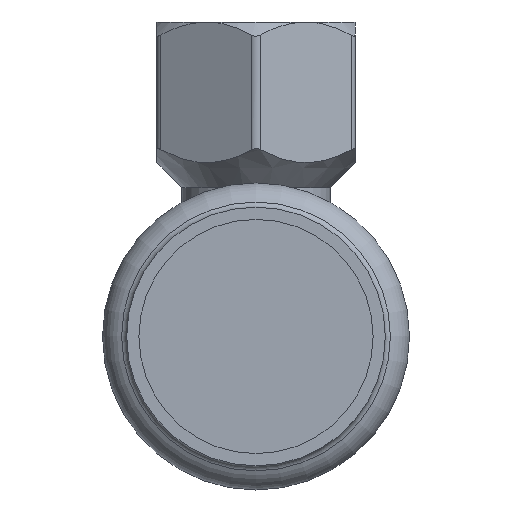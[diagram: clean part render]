
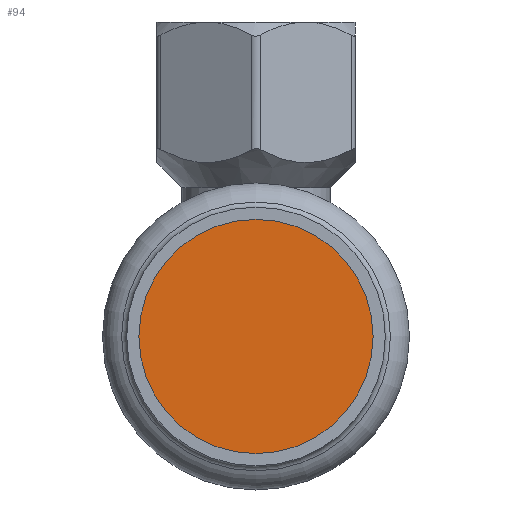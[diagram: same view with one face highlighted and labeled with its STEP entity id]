
A CAD part, front view. The second image highlights one B-rep face of the part: STEP entity #94.
In plain terms, the highlighted planar face has unit normal (0, -1, 0).
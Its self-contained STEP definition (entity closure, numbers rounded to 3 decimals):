
#94=ADVANCED_FACE('',(#429),#431,.T.);
#429=FACE_BOUND('',#430,.T.);
#430=EDGE_LOOP('',(#589));
#431=PLANE('',#432);
#432=AXIS2_PLACEMENT_3D('',#433,#434,#435);
#433=CARTESIAN_POINT('',(0.,-44.219,0.));
#434=DIRECTION('',(0.,-1.,0.));
#435=DIRECTION('',(0.,0.,-1.));
#589=ORIENTED_EDGE('',*,*,#663,.T.);
#663=EDGE_CURVE('',#791,#791,#792,.F.);
#791=VERTEX_POINT('',#2442);
#792=CIRCLE('',#2443,14.15);
#2442=CARTESIAN_POINT('',(0.,-44.219,14.15));
#2443=AXIS2_PLACEMENT_3D('',#2444,#2445,#2446);
#2444=CARTESIAN_POINT('',(0.,-44.219,0.));
#2445=DIRECTION('',(0.,1.,0.));
#2446=DIRECTION('',(0.,0.,1.));
